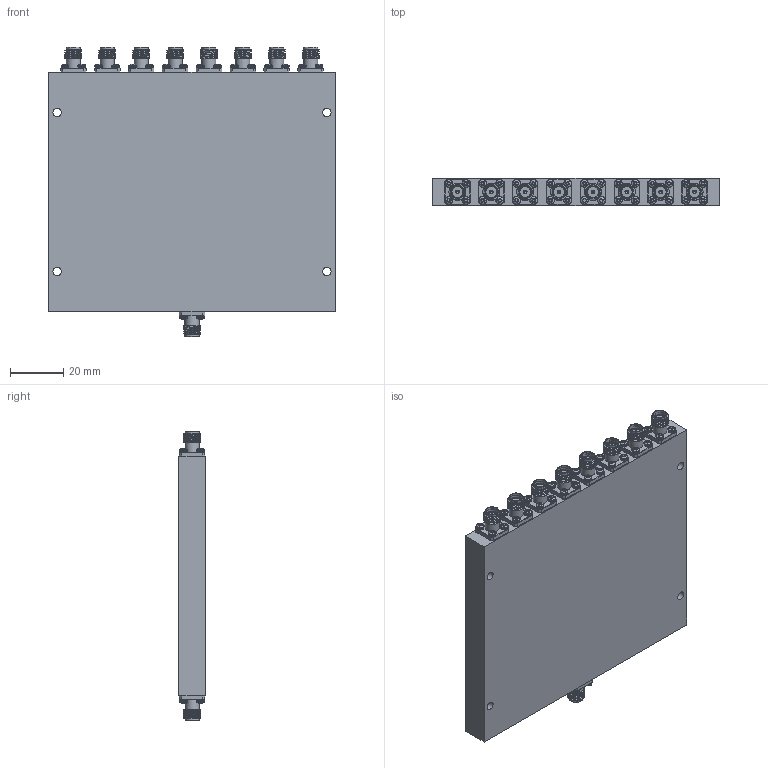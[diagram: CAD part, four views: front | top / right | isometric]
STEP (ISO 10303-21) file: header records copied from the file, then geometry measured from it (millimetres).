
FILE_DESCRIPTION (( 'STEP AP214' ), '1' );
FILE_NAME ('APD-8-2G18G-SFF-30W.STEP', '2026-01-28T15:33:04', ( '' ), ( '' ), 'SwSTEP 2.0', 'SolidWorks 2025', '' );
FILE_SCHEMA (( 'AUTOMOTIVE_DESIGN' ));
Length unit declared in the file: inch
Products named in the file (1): APD-8-2G18G-SFF-30W
Bounding box: 107.44 x 10.11 x 108.51 mm (x, y, z)
Volume: 99884.2 mm3; surface area: 46832.1 mm2
Topology: 83 solids, 83 shells, 2604 faces, 7356 edges, 5252 vertices
Faces by surface type: plane 1210, cylinder 863, torus 279, cone 198, sphere 36, bspline 18
Full cylindrical faces by diameter (mm): 0.381 x9, 0.635 x9, 1.016 x9, 1.27 x9, 1.524 x36, 1.702 x36, 2.946 x36, 3.175 x4, 3.302 x9, 4.191 x18, 4.597 x9, 5.283 x18
Entity records: 128734 total; most frequent: CARTESIAN_POINT 32936, ORIENTED_EDGE 13588, DIRECTION 11927, EDGE_CURVE 6794, VERTEX_POINT 5225, AXIS2_PLACEMENT_3D 4455, EDGE_LOOP 3553, FACE_OUTER_BOUND 3121
